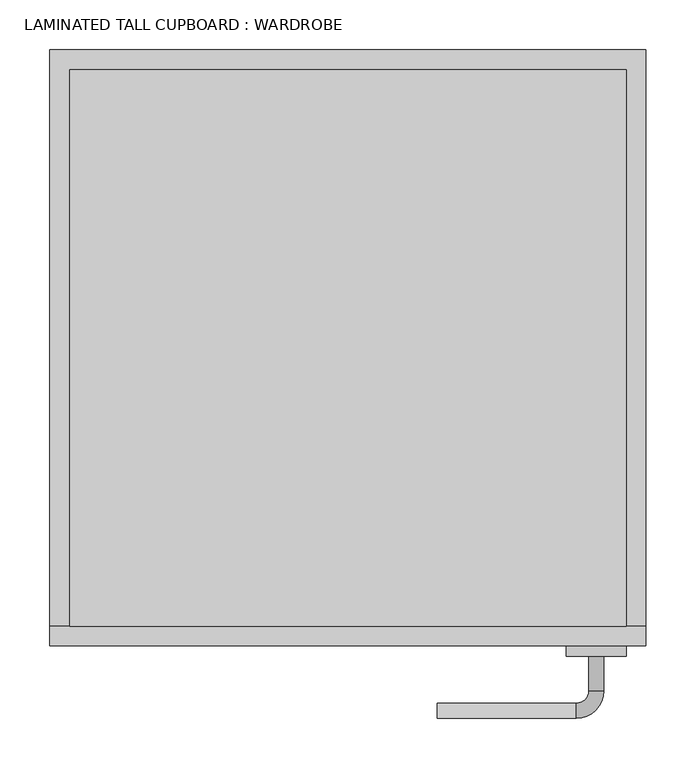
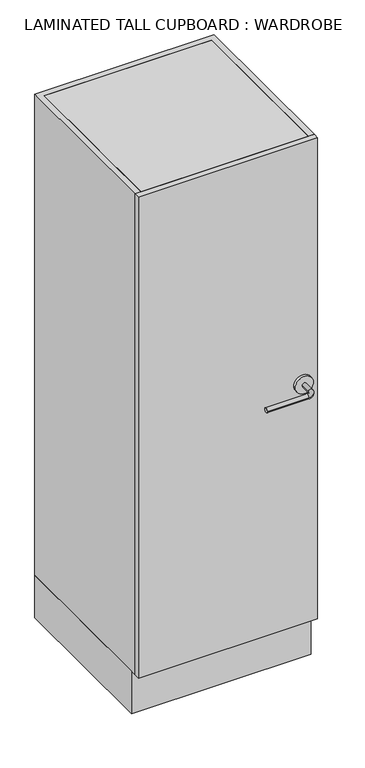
"""IFC4 building model written with IfcOpenShell, lengths in millimetres: furniture geometry, LAMINATED TALL CUPBOARD : WARDROBE."""

from ifc_helpers import new_model, si_unit, point, frame, frame_2d, origin, origin_with_axes, place, context, project, spatial, polyline, circle_curve, ellipse_curve, trimmed, segment, composite_curve, outline, extrude, source, transform, mapped, element, save
from ifc_brep_helpers import plane_surface, cylinder_surface, revolved_surface, advanced_brep


def laminated_tall_cupboard_wardrobe_6f0e5be1(model_context):
    return source(origin(), model_context, "Body", "SolidModel", [
        advanced_brep(
        [(302.2003264, -610.0, 1000.0), (287.2003264, -610.0, 1000.0), (302.2003264, -645.0, 1000.0), (287.2003264, -645.0, 1000.0), (274.7003264, -657.5, 1000.0), (274.7003264, -672.5, 1000.0), (134.7003264, -672.5, 1000.0), (134.7003264, -657.5, 1000.0)],
        [
            (0, 1, circle_curve(frame((294.7003264, -610.0, 1000.0), z_axis=(0.0, 1.0, 0.0), x_axis=(-1.0, 0.0, 0.0)), 7.5)),
            (1, 0, circle_curve(frame((294.7003264, -610.0, 1000.0), z_axis=(0.0, 1.0, 0.0), x_axis=(-1.0, 0.0, 0.0)), 7.5)),
            (0, 2),
            (2, 3, circle_curve(frame((294.7003264, -645.0, 1000.0), z_axis=(0.0, 1.0, 0.0), x_axis=(-1.0, 0.0, 0.0)), 7.5)),
            (3, 1),
            (3, 2, circle_curve(frame((294.7003264, -645.0, 1000.0), z_axis=(0.0, 1.0, 0.0), x_axis=(-1.0, 0.0, 0.0)), 7.5)),
            (4, 3, circle_curve(frame((274.7003264, -645.0, 1000.0), z_axis=(0.0, 0.0, 1.0), x_axis=(1.0, 0.0, 0.0)), 12.5)),
            (2, 5, circle_curve(frame((274.7003264, -645.0, 1000.0), z_axis=(0.0, 0.0, -1.0), x_axis=(1.0, 0.0, 0.0)), 27.5)),
            (5, 4, circle_curve(frame((274.7003264, -665.0, 1000.0), z_axis=(1.0, 0.0, 0.0), x_axis=(0.0, 1.0, 0.0)), 7.5)),
            (4, 5, circle_curve(frame((274.7003264, -665.0, 1000.0), z_axis=(1.0, 0.0, 0.0), x_axis=(0.0, 1.0, 0.0)), 7.5)),
            (6, 7, circle_curve(frame((134.7003264, -665.0, 1000.0), z_axis=(-1.0, 0.0, 0.0), x_axis=(0.0, 1.0, 0.0)), 7.5)),
            (7, 6, circle_curve(frame((134.7003264, -665.0, 1000.0), z_axis=(-1.0, 0.0, 0.0), x_axis=(0.0, 1.0, 0.0)), 7.5)),
            (5, 6),
            (7, 4),
        ],
        [
            plane_surface(frame((294.7003264, -610.0, 1000.0), z_axis=(0.0, 1.0, 0.0), x_axis=(0.0, 0.0, -1.0))),
            cylinder_surface(frame((294.7003264, -610.0, 1000.0), z_axis=(0.0, 1.0, 0.0), x_axis=(-1.0, 0.0, 0.0)), 7.5),
            revolved_surface(trimmed(ellipse_curve(frame((294.7003264, -645.0, 1000.0), z_axis=(0.0, 1.0, 0.0), x_axis=(-1.0, 0.0, 0.0)), 7.5, 7.5), [point((302.2003264, -645.0, 1000.0))], [point((287.2003264, -645.0, 1000.0))], True, "CARTESIAN"), (274.7003264, -645.0, 1000.0), (0.0, 0.0, -1.0)),
            revolved_surface(trimmed(ellipse_curve(frame((294.7003264, -645.0, 1000.0), z_axis=(0.0, 1.0, 0.0), x_axis=(-1.0, 0.0, 0.0)), 7.5, 7.5), [point((287.2003264, -645.0, 1000.0))], [point((302.2003264, -645.0, 1000.0))], True, "CARTESIAN"), (274.7003264, -645.0, 1000.0), (0.0, 0.0, -1.0)),
            plane_surface(frame((134.7003264, -665.0, 1000.0), z_axis=(-1.0, 0.0, 0.0), x_axis=(0.0, 0.0, -1.0))),
            cylinder_surface(frame((274.7003264, -665.0, 1000.0), z_axis=(1.0, 0.0, 0.0), x_axis=(0.0, 1.0, 0.0)), 7.5),
        ],
        [
            (0, [[1, 2]]),
            (1, [[-1, 3, 4, 5]]),
            (1, [[-2, -5, 6, -3]]),
            (2, [[7, -4, 8, 9]]),
            (3, [[-8, -6, -7, 10]]),
            (4, [[11, 12]]),
            (5, [[-9, 13, -12, 14]]),
            (5, [[-10, -14, -11, -13]]),
        ],
    ),
        extrude(outline(composite_curve([segment(trimmed(circle_curve(frame_2d((1000.0, 294.7003264)), 30.0), [point((1000.0, 324.7003264))], [point((1000.0, 264.7003264))], False, "CARTESIAN"), True, "CONTINUOUS"), segment(trimmed(circle_curve(frame_2d((1000.0, 294.7003264)), 30.0), [point((1000.0, 264.7003264))], [point((1000.0, 324.7003264))], False, "CARTESIAN"), True, "CONTINUOUS")], self_intersect=False)), frame((0.0, -610.0, 0.0), z_axis=(0.0, 1.0, 0.0), x_axis=(0.0, 0.0, 1.0)), (0.0, 0.0, 1.0), 10.0),
        extrude(outline(polyline([(-255.2996736, -560.0), (-255.2996736, 0.0), (344.7003264, 0.0), (344.7003264, -560.0), (-255.2996736, -560.0)]), holes=[polyline([(324.7003264, -20.0), (-235.2996736, -20.0), (-235.2996736, -540.0), (324.7003264, -540.0), (324.7003264, -20.0)])]), origin_with_axes(), (0.0, 0.0, 1.0), 150.0),
        extrude(outline(polyline([(324.7003264, -580.0), (-235.2996736, -580.0), (-235.2996736, -20.0), (324.7003264, -20.0), (324.7003264, -580.0)])), frame((0.0, 0.0, 150.0), z_axis=(0.0, 0.0, 1.0), x_axis=(1.0, 0.0, 0.0)), (0.0, 0.0, 1.0), 20.0),
        extrude(outline(polyline([(324.7003264, -580.0), (-235.2996736, -580.0), (-235.2996736, -20.0), (324.7003264, -20.0), (324.7003264, -580.0)])), frame((0.0, 0.0, 1830.0), z_axis=(0.0, 0.0, 1.0), x_axis=(1.0, 0.0, 0.0)), (0.0, 0.0, 1.0), 20.0),
        extrude(outline(polyline([(344.7003264, -600.0), (-255.2996736, -600.0), (-255.2996736, -580.0), (344.7003264, -580.0), (344.7003264, -600.0)])), frame((0.0, 0.0, 150.0), z_axis=(0.0, 0.0, 1.0), x_axis=(1.0, 0.0, 0.0)), (0.0, 0.0, 1.0), 1700.0),
        extrude(outline(polyline([(-235.2996736, -580.0), (-255.2996736, -580.0), (-255.2996736, 0.0), (344.7003264, 0.0), (344.7003264, -580.0), (324.7003264, -580.0), (324.7003264, -20.0), (-235.2996736, -20.0), (-235.2996736, -580.0)])), frame((0.0, 0.0, 150.0), z_axis=(0.0, 0.0, 1.0), x_axis=(1.0, 0.0, 0.0)), (0.0, 0.0, 1.0), 1700.0),
    ])


if __name__ == "__main__":
    model = new_model("IFC4")
    model_context = context("Model", 3, world=origin())
    ifc_project = project(units=[si_unit("LENGTHUNIT", "METRE", prefix="MILLI")], contexts=[model_context])
    site = spatial("IfcSite", under=ifc_project)
    building = spatial("IfcBuilding", under=site)
    placement = place(None, origin())
    laminated_tall_cupboard_wardrobe_shape = laminated_tall_cupboard_wardrobe_6f0e5be1(model_context)
    element("IfcFurniture", 1, ObjectType="LAMINATED TALL CUPBOARD : WARDROBE", at=placement, inside=building, context=model_context, shape_type="MappedRepresentation", body=[
        mapped(laminated_tall_cupboard_wardrobe_shape, transform((0.0, 0.0, 0.0), x_axis=(1.0, 0.0, 0.0), y_axis=(0.0, 1.0, 0.0), z_axis=(0.0, 0.0, 1.0))),
    ])
    save(model, "model.ifc")
